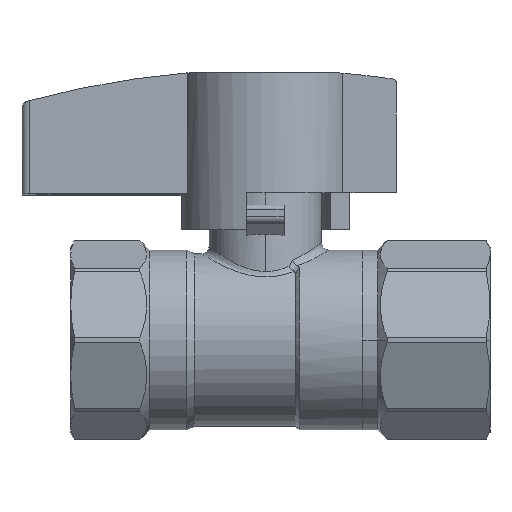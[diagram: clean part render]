
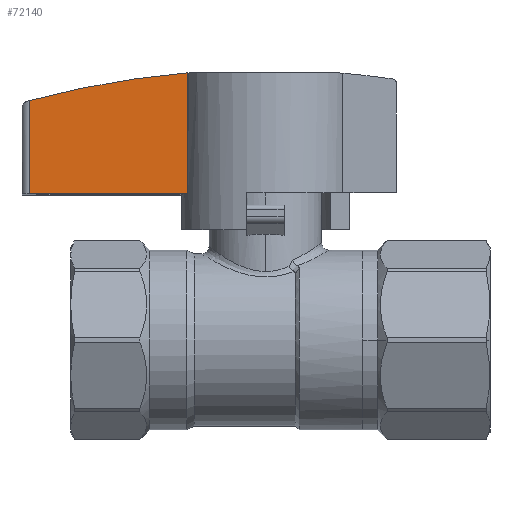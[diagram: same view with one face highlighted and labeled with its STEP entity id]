
A CAD part, front view. The second image highlights one B-rep face of the part: STEP entity #72140.
In plain terms, the highlighted planar face has unit normal (0, -1, 0).
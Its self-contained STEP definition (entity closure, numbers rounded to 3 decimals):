
#70455 = PLANE('',#70456);
#70456 = AXIS2_PLACEMENT_3D('',#70457,#70458,#70459);
#70457 = CARTESIAN_POINT('',(29.507,-12.995,
    -23.892));
#70458 = DIRECTION('',(0.,-0.017,
    -1.));
#70459 = DIRECTION('',(0.,1.,
    -0.017));
#70843 = CYLINDRICAL_SURFACE('',#70844,4.728);
#70844 = AXIS2_PLACEMENT_3D('',#70845,#70846,#70847);
#70845 = CARTESIAN_POINT('',(28.807,-12.995,
    -27.967));
#70846 = DIRECTION('',(0.,1.,0.));
#70847 = DIRECTION('',(0.,0.,1.));
#71224 = EDGE_CURVE('',#71225,#71227,#71229,.T.);
#71225 = VERTEX_POINT('',#71226);
#71226 = CARTESIAN_POINT('',(27.577,-12.995,
    -23.892));
#71227 = VERTEX_POINT('',#71228);
#71228 = CARTESIAN_POINT('',(28.41,-12.995,
    -23.892));
#71229 = SURFACE_CURVE('',#71230,(#71234,#71241),.PCURVE_S1.);
#71230 = LINE('',#71231,#71232);
#71231 = CARTESIAN_POINT('',(29.507,-12.995,
    -23.892));
#71232 = VECTOR('',#71233,1.);
#71233 = DIRECTION('',(1.,0.,0.));
#71234 = PCURVE('',#70455,#71235);
#71235 = DEFINITIONAL_REPRESENTATION('',(#71236),#71240);
#71236 = LINE('',#71237,#71238);
#71237 = CARTESIAN_POINT('',(0.,0.));
#71238 = VECTOR('',#71239,1.);
#71239 = DIRECTION('',(0.,1.));
#71240 = ( GEOMETRIC_REPRESENTATION_CONTEXT(2) 
PARAMETRIC_REPRESENTATION_CONTEXT() REPRESENTATION_CONTEXT('2D SPACE',''
  ) );
#71241 = PCURVE('',#71242,#71247);
#71242 = PLANE('',#71243);
#71243 = AXIS2_PLACEMENT_3D('',#71244,#71245,#71246);
#71244 = CARTESIAN_POINT('',(28.807,-12.995,
    -27.967));
#71245 = DIRECTION('',(0.,-1.,0.));
#71246 = DIRECTION('',(0.,0.,-1.));
#71247 = DEFINITIONAL_REPRESENTATION('',(#71248),#71252);
#71248 = LINE('',#71249,#71250);
#71249 = CARTESIAN_POINT('',(-4.075,0.7));
#71250 = VECTOR('',#71251,1.);
#71251 = DIRECTION('',(0.,1.));
#71252 = ( GEOMETRIC_REPRESENTATION_CONTEXT(2) 
PARAMETRIC_REPRESENTATION_CONTEXT() REPRESENTATION_CONTEXT('2D SPACE',''
  ) );
#71272 = CYLINDRICAL_SURFACE('',#71273,0.039);
#71273 = AXIS2_PLACEMENT_3D('',#71274,#71275,#71276);
#71274 = CARTESIAN_POINT('',(27.577,-12.956,
    -27.967));
#71275 = DIRECTION('',(0.,0.,1.));
#71276 = DIRECTION('',(-1.,0.,0.));
#71469 = CYLINDRICAL_SURFACE('',#71470,0.453);
#71470 = AXIS2_PLACEMENT_3D('',#71471,#71472,#71473);
#71471 = CARTESIAN_POINT('',(28.818,-12.798,
    -21.974));
#71472 = DIRECTION('',(0.,0.,-1.));
#71473 = DIRECTION('',(1.,0.,0.));
#72140 = ADVANCED_FACE('',(#72141),#71242,.T.);
#72141 = FACE_BOUND('',#72142,.T.);
#72142 = EDGE_LOOP('',(#72143,#72169,#72190,#72191));
#72143 = ORIENTED_EDGE('',*,*,#72144,.T.);
#72144 = EDGE_CURVE('',#72145,#72147,#72149,.T.);
#72145 = VERTEX_POINT('',#72146);
#72146 = CARTESIAN_POINT('',(28.41,-12.995,
    -23.256));
#72147 = VERTEX_POINT('',#72148);
#72148 = CARTESIAN_POINT('',(27.577,-12.995,
    -23.402));
#72149 = SURFACE_CURVE('',#72150,(#72155,#72162),.PCURVE_S1.);
#72150 = CIRCLE('',#72151,4.728);
#72151 = AXIS2_PLACEMENT_3D('',#72152,#72153,#72154);
#72152 = CARTESIAN_POINT('',(28.807,-12.995,
    -27.967));
#72153 = DIRECTION('',(0.,-1.,0.));
#72154 = DIRECTION('',(0.,0.,-1.));
#72155 = PCURVE('',#71242,#72156);
#72156 = DEFINITIONAL_REPRESENTATION('',(#72157),#72161);
#72157 = CIRCLE('',#72158,4.728);
#72158 = AXIS2_PLACEMENT_2D('',#72159,#72160);
#72159 = CARTESIAN_POINT('',(0.,0.));
#72160 = DIRECTION('',(1.,0.));
#72161 = ( GEOMETRIC_REPRESENTATION_CONTEXT(2) 
PARAMETRIC_REPRESENTATION_CONTEXT() REPRESENTATION_CONTEXT('2D SPACE',''
  ) );
#72162 = PCURVE('',#70843,#72163);
#72163 = DEFINITIONAL_REPRESENTATION('',(#72164),#72168);
#72164 = LINE('',#72165,#72166);
#72165 = CARTESIAN_POINT('',(9.425,0.));
#72166 = VECTOR('',#72167,1.);
#72167 = DIRECTION('',(-1.,0.));
#72168 = ( GEOMETRIC_REPRESENTATION_CONTEXT(2) 
PARAMETRIC_REPRESENTATION_CONTEXT() REPRESENTATION_CONTEXT('2D SPACE',''
  ) );
#72169 = ORIENTED_EDGE('',*,*,#72170,.T.);
#72170 = EDGE_CURVE('',#72147,#71225,#72171,.T.);
#72171 = SURFACE_CURVE('',#72172,(#72176,#72183),.PCURVE_S1.);
#72172 = LINE('',#72173,#72174);
#72173 = CARTESIAN_POINT('',(27.577,-12.995,
    -23.892));
#72174 = VECTOR('',#72175,1.);
#72175 = DIRECTION('',(0.,0.,-1.));
#72176 = PCURVE('',#71242,#72177);
#72177 = DEFINITIONAL_REPRESENTATION('',(#72178),#72182);
#72178 = LINE('',#72179,#72180);
#72179 = CARTESIAN_POINT('',(-4.075,-1.231));
#72180 = VECTOR('',#72181,1.);
#72181 = DIRECTION('',(1.,0.));
#72182 = ( GEOMETRIC_REPRESENTATION_CONTEXT(2) 
PARAMETRIC_REPRESENTATION_CONTEXT() REPRESENTATION_CONTEXT('2D SPACE',''
  ) );
#72183 = PCURVE('',#71272,#72184);
#72184 = DEFINITIONAL_REPRESENTATION('',(#72185),#72189);
#72185 = LINE('',#72186,#72187);
#72186 = CARTESIAN_POINT('',(1.571,4.075));
#72187 = VECTOR('',#72188,1.);
#72188 = DIRECTION('',(0.,-1.));
#72189 = ( GEOMETRIC_REPRESENTATION_CONTEXT(2) 
PARAMETRIC_REPRESENTATION_CONTEXT() REPRESENTATION_CONTEXT('2D SPACE',''
  ) );
#72190 = ORIENTED_EDGE('',*,*,#71224,.T.);
#72191 = ORIENTED_EDGE('',*,*,#72192,.F.);
#72192 = EDGE_CURVE('',#72145,#71227,#72193,.T.);
#72193 = SURFACE_CURVE('',#72194,(#72198,#72205),.PCURVE_S1.);
#72194 = LINE('',#72195,#72196);
#72195 = CARTESIAN_POINT('',(28.41,-12.995,
    -21.974));
#72196 = VECTOR('',#72197,1.);
#72197 = DIRECTION('',(0.,0.,-1.));
#72198 = PCURVE('',#71242,#72199);
#72199 = DEFINITIONAL_REPRESENTATION('',(#72200),#72204);
#72200 = LINE('',#72201,#72202);
#72201 = CARTESIAN_POINT('',(-5.993,-0.398));
#72202 = VECTOR('',#72203,1.);
#72203 = DIRECTION('',(1.,0.));
#72204 = ( GEOMETRIC_REPRESENTATION_CONTEXT(2) 
PARAMETRIC_REPRESENTATION_CONTEXT() REPRESENTATION_CONTEXT('2D SPACE',''
  ) );
#72205 = PCURVE('',#71469,#72206);
#72206 = DEFINITIONAL_REPRESENTATION('',(#72207),#72211);
#72207 = LINE('',#72208,#72209);
#72208 = CARTESIAN_POINT('',(2.692,0.));
#72209 = VECTOR('',#72210,1.);
#72210 = DIRECTION('',(0.,1.));
#72211 = ( GEOMETRIC_REPRESENTATION_CONTEXT(2) 
PARAMETRIC_REPRESENTATION_CONTEXT() REPRESENTATION_CONTEXT('2D SPACE',''
  ) );
